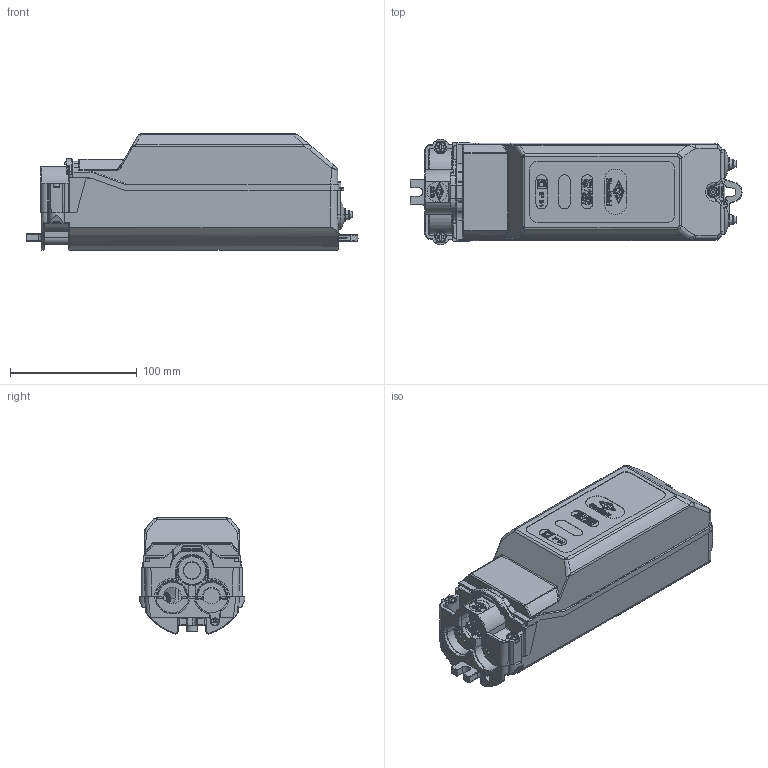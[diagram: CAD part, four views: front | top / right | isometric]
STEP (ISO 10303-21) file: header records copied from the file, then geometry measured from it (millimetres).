
FILE_DESCRIPTION (( 'STEP AP203' ), '1' );
FILE_NAME ('3D - HSW2309 Außenkontur.STEP', '2019-06-28T09:40:22', ( '' ), ( '' ), 'SwSTEP 2.0', 'SolidWorks 2013', '' );
FILE_SCHEMA (( 'CONFIG_CONTROL_DESIGN' ));
Products named in the file (1): 3D - HSW2309 Außenkontur
Bounding box: 262.08 x 83.5 x 91.61 mm (x, y, z)
Surface area: 101409.1 mm2 (no closed solid volume)
Topology: 0 solids, 27 shells, 1140 faces, 3994 edges, 2790 vertices
Faces by surface type: plane 513, cylinder 294, bspline 148, torus 90, cone 83, sphere 12
Entity records: 53207 total; most frequent: CARTESIAN_POINT 21102, ORIENTED_EDGE 6454, DIRECTION 6038, EDGE_CURVE 3982, VERTEX_POINT 2790, LINE 2322, VECTOR 2322, AXIS2_PLACEMENT_3D 1858
